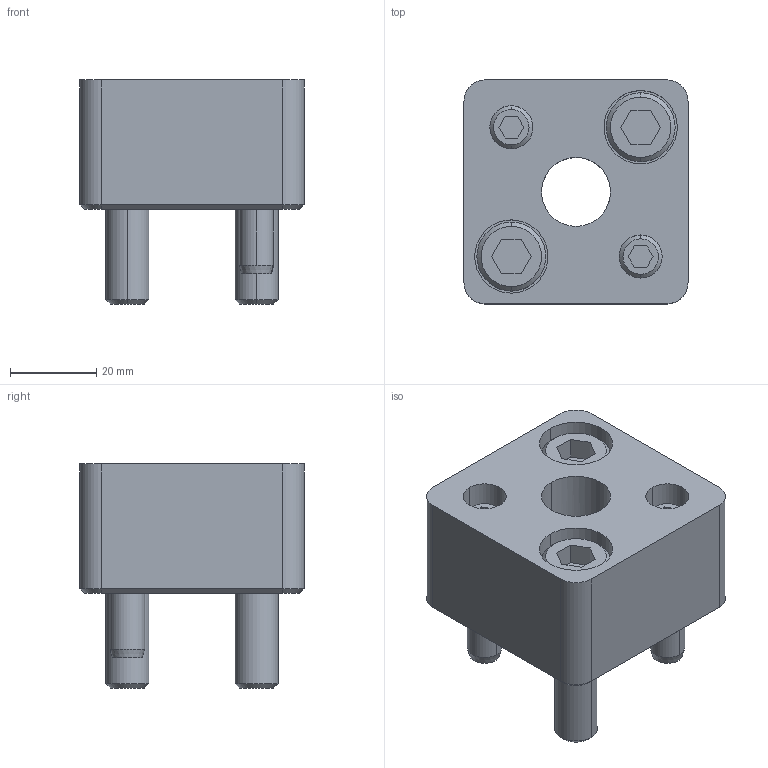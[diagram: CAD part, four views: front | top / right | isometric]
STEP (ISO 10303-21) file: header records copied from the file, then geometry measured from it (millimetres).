
FILE_DESCRIPTION(/* description */ (''),/* implementation_level */ '2;1');
FILE_NAME(/* name */ '3d_hmpdr16_04135_r00.stp',/* time_stamp */ '2011-01-10T14:14:42+09:00',/* author */ ('MISUMI'),/* organization */ (''),/* preprocessor_version */ 'ST-DEVELOPER v11',/* originating_system */ 'UGS - NX 5.0',/* authorisation */ '');
FILE_SCHEMA (('CONFIG_CONTROL_DESIGN'));
Length unit declared in the file: millimetre
Products named in the file (1): 3d_hmpdr16_04135_r00
Bounding box: 52 x 52 x 52 mm (x, y, z)
Volume: 74635.8 mm3; surface area: 23542 mm2
Topology: 7 solids, 7 shells, 147 faces, 326 edges, 207 vertices
Faces by surface type: plane 66, cylinder 51, cone 30
Entity records: 4196 total; most frequent: DIRECTION 744, CARTESIAN_POINT 740, ORIENTED_EDGE 652, EDGE_CURVE 326, AXIS2_PLACEMENT_3D 281, VERTEX_POINT 207, LINE 182, VECTOR 182
